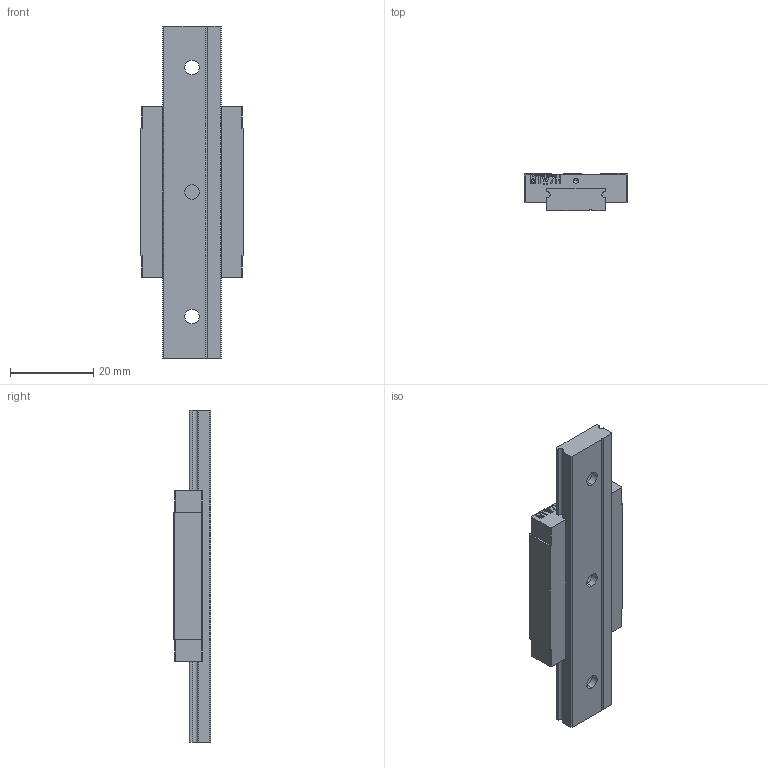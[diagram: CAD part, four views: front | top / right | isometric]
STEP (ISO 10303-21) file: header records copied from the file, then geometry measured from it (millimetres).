
FILE_DESCRIPTION (( 'STEP AP214' ), '1' );
FILE_NAME ('7.1047 Lineaarikelkka MTW7H.STEP', '2026-03-16T07:45:30', ( '' ), ( '' ), 'SwSTEP 2.0', 'SolidWorks 2025', '' );
FILE_SCHEMA (( 'AUTOMOTIVE_DESIGN' ));
Length unit declared in the file: millimetre
Products named in the file (1): 7.1047 Lineaarikelkka MTW7H
Bounding box: 25 x 9 x 80 mm (x, y, z)
Volume: 10445.6 mm3; surface area: 6905.9 mm2
Topology: 2 solids, 2 shells, 202 faces, 540 edges, 350 vertices
Faces by surface type: plane 138, cylinder 33, bspline 19, cone 12
Entity records: 9502 total; most frequent: CARTESIAN_POINT 2320, ORIENTED_EDGE 1056, DIRECTION 924, EDGE_CURVE 528, VECTOR 424, LINE 424, VERTEX_POINT 350, AXIS2_PLACEMENT_3D 250
